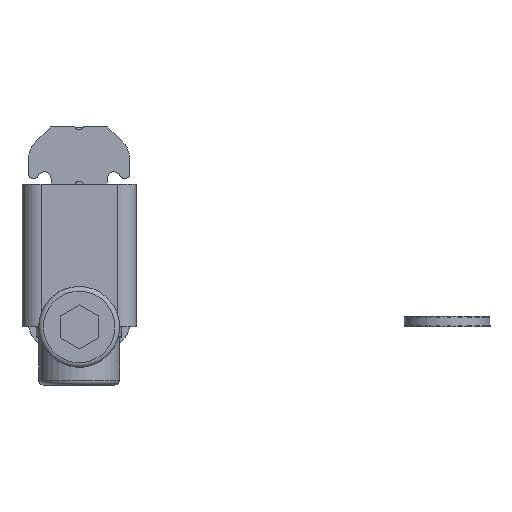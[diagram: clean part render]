
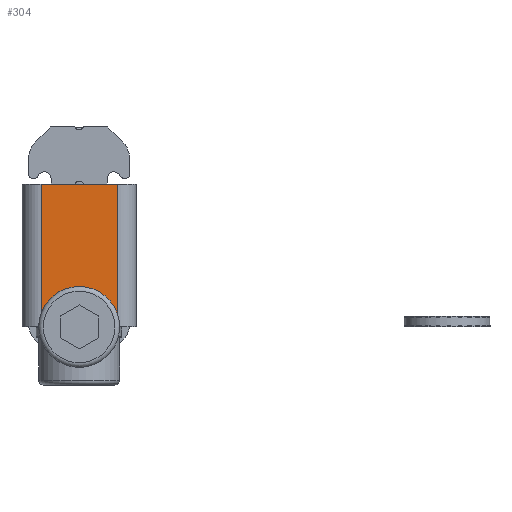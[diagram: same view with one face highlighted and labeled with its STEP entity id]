
A CAD part, left-side view. The second image highlights one B-rep face of the part: STEP entity #304.
In plain terms, the highlighted planar face has unit normal (-1, 0, 0).
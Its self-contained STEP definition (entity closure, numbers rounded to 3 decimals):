
#304 = ADVANCED_FACE( '', ( #786 ), #787, .F. );
#786 = FACE_OUTER_BOUND( '', #1458, .T. );
#787 = PLANE( '', #1459 );
#1458 = EDGE_LOOP( '', ( #2291, #2292, #2293, #2294 ) );
#1459 = AXIS2_PLACEMENT_3D( '', #2295, #2296, #2297 );
#2291 = ORIENTED_EDGE( '', *, *, #4398, .T. );
#2292 = ORIENTED_EDGE( '', *, *, #4399, .T. );
#2293 = ORIENTED_EDGE( '', *, *, #4400, .F. );
#2294 = ORIENTED_EDGE( '', *, *, #4401, .T. );
#2295 = CARTESIAN_POINT( '', ( -22.5, -6., 15. ) );
#2296 = DIRECTION( '', ( 1., 0., 0. ) );
#2297 = DIRECTION( '', ( 0., 0., -1. ) );
#4398 = EDGE_CURVE( '', #5425, #5426, #5427, .T. );
#4399 = EDGE_CURVE( '', #5426, #5428, #5429, .T. );
#4400 = EDGE_CURVE( '', #5430, #5428, #5431, .T. );
#4401 = EDGE_CURVE( '', #5430, #5425, #5432, .F. );
#5425 = VERTEX_POINT( '', #7097 );
#5426 = VERTEX_POINT( '', #7098 );
#5427 = LINE( '', #7099, #7100 );
#5428 = VERTEX_POINT( '', #7101 );
#5429 = LINE( '', #7102, #7103 );
#5430 = VERTEX_POINT( '', #7104 );
#5431 = LINE( '', #7105, #7106 );
#5432 = LINE( '', #7107, #7108 );
#7097 = CARTESIAN_POINT( '', ( -22.5, -4., 15. ) );
#7098 = CARTESIAN_POINT( '', ( -22.5, 4., 15. ) );
#7099 = CARTESIAN_POINT( '', ( -22.5, -6., 15. ) );
#7100 = VECTOR( '', #8770, 1000. );
#7101 = CARTESIAN_POINT( '', ( -22.5, 4., 0. ) );
#7102 = CARTESIAN_POINT( '', ( -22.5, 4., 15. ) );
#7103 = VECTOR( '', #8771, 1000. );
#7104 = CARTESIAN_POINT( '', ( -22.5, -4., 0. ) );
#7105 = CARTESIAN_POINT( '', ( -22.5, -6., 0. ) );
#7106 = VECTOR( '', #8772, 1000. );
#7107 = CARTESIAN_POINT( '', ( -22.5, -4., 15. ) );
#7108 = VECTOR( '', #8773, 1000. );
#8770 = DIRECTION( '', ( 0., 1., 0. ) );
#8771 = DIRECTION( '', ( 0., 0., -1. ) );
#8772 = DIRECTION( '', ( 0., 1., 0. ) );
#8773 = DIRECTION( '', ( 0., 0., -1. ) );
